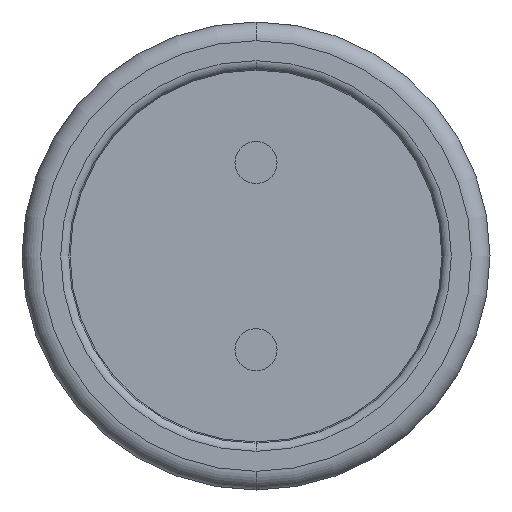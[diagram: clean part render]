
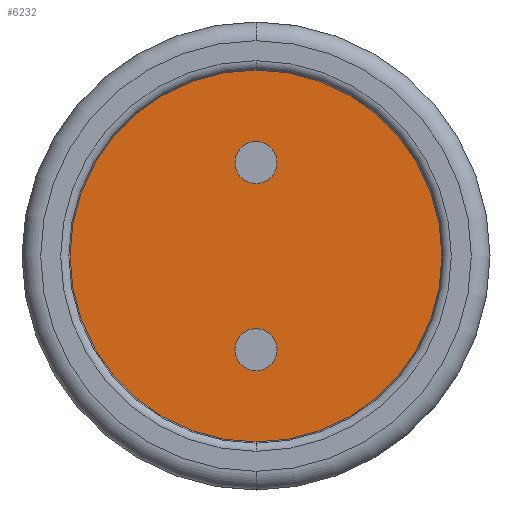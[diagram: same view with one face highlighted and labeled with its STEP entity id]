
A CAD part, left-side view. The second image highlights one B-rep face of the part: STEP entity #6232.
In plain terms, the highlighted planar face has unit normal (-1, 0, 0).
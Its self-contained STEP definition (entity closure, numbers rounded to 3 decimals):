
#40=CARTESIAN_POINT('',(-4.8,0.,0.002));
#41=DIRECTION('',(-1.,0.,0.));
#42=DIRECTION('',(0.,0.,-1.));
#43=AXIS2_PLACEMENT_3D('',#40,#41,#42);
#45=CARTESIAN_POINT('',(-4.8,0.,0.002));
#46=DIRECTION('',(1.,0.,0.));
#47=DIRECTION('',(0.,0.,-1.));
#48=AXIS2_PLACEMENT_3D('',#45,#46,#47);
#50=CARTESIAN_POINT('',(-4.8,0.,-1.));
#51=DIRECTION('',(-1.,0.,0.));
#52=DIRECTION('',(0.,0.,-1.));
#53=AXIS2_PLACEMENT_3D('',#50,#51,#52);
#55=CARTESIAN_POINT('',(-4.8,0.,-1.));
#56=DIRECTION('',(-1.,0.,0.));
#57=DIRECTION('',(0.,0.,1.));
#58=AXIS2_PLACEMENT_3D('',#55,#56,#57);
#60=CARTESIAN_POINT('',(-4.8,0.,1.));
#61=DIRECTION('',(-1.,0.,0.));
#62=DIRECTION('',(0.,0.,-1.));
#63=AXIS2_PLACEMENT_3D('',#60,#61,#62);
#65=CARTESIAN_POINT('',(-4.8,0.,1.));
#66=DIRECTION('',(-1.,0.,0.));
#67=DIRECTION('',(0.,0.,1.));
#68=AXIS2_PLACEMENT_3D('',#65,#66,#67);
#4683=CARTESIAN_POINT('',(-4.8,0.,-1.998));
#4684=VERTEX_POINT('',#4683);
#4685=CARTESIAN_POINT('',(-4.8,0.,2.002));
#4686=VERTEX_POINT('',#4685);
#4691=CARTESIAN_POINT('',(-4.8,0.,-1.225));
#4692=CARTESIAN_POINT('',(-4.8,0.,-0.775));
#4693=VERTEX_POINT('',#4691);
#4694=VERTEX_POINT('',#4692);
#4695=CARTESIAN_POINT('',(-4.8,0.,0.775));
#4696=CARTESIAN_POINT('',(-4.8,0.,1.225));
#4697=VERTEX_POINT('',#4695);
#4698=VERTEX_POINT('',#4696);
#6211=CARTESIAN_POINT('',(-4.8,0.,0.002));
#6212=DIRECTION('',(1.,0.,0.));
#6213=DIRECTION('',(0.,0.,1.));
#6214=AXIS2_PLACEMENT_3D('',#6211,#6212,#6213);
#6215=PLANE('',#6214);
#6216=ORIENTED_EDGE('',*,*,#6190,.F.);
#6217=ORIENTED_EDGE('',*,*,#6206,.T.);
#6218=EDGE_LOOP('',(#6216,#6217));
#6219=FACE_OUTER_BOUND('',#6218,.F.);
#6221=ORIENTED_EDGE('',*,*,#6220,.T.);
#6223=ORIENTED_EDGE('',*,*,#6222,.T.);
#6224=EDGE_LOOP('',(#6221,#6223));
#6225=FACE_BOUND('',#6224,.F.);
#6227=ORIENTED_EDGE('',*,*,#6226,.T.);
#6229=ORIENTED_EDGE('',*,*,#6228,.T.);
#6230=EDGE_LOOP('',(#6227,#6229));
#6231=FACE_BOUND('',#6230,.F.);
#6232=ADVANCED_FACE('',(#6219,#6225,#6231),#6215,.F.);
#44=CIRCLE('',#43,2.);
#49=CIRCLE('',#48,2.);
#54=CIRCLE('',#53,0.225);
#59=CIRCLE('',#58,0.225);
#64=CIRCLE('',#63,0.225);
#69=CIRCLE('',#68,0.225);
#6190=EDGE_CURVE('',#4684,#4686,#44,.T.);
#6206=EDGE_CURVE('',#4684,#4686,#49,.T.);
#6220=EDGE_CURVE('',#4693,#4694,#54,.T.);
#6222=EDGE_CURVE('',#4694,#4693,#59,.T.);
#6226=EDGE_CURVE('',#4697,#4698,#64,.T.);
#6228=EDGE_CURVE('',#4698,#4697,#69,.T.);
